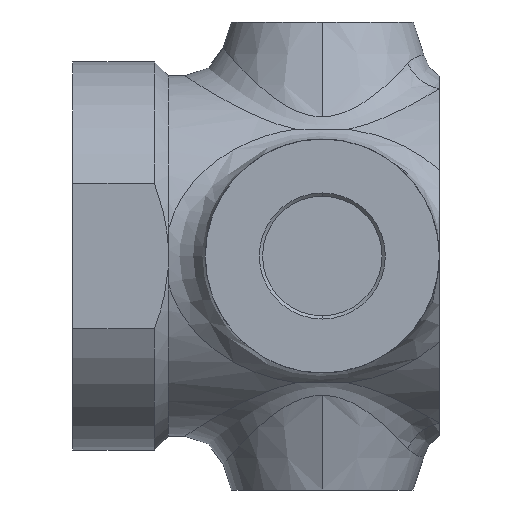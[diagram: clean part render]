
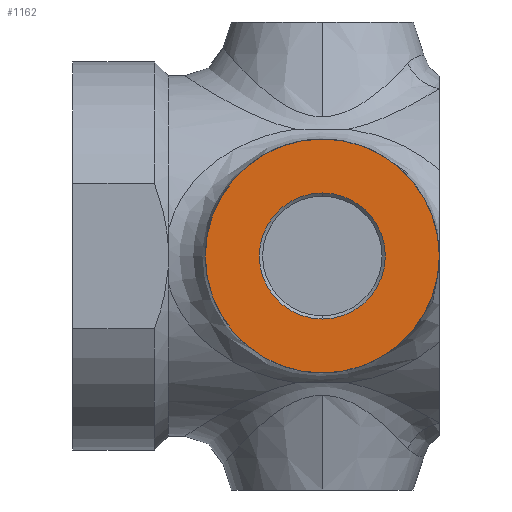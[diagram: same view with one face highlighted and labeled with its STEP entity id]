
A CAD part, left-side view. The second image highlights one B-rep face of the part: STEP entity #1162.
In plain terms, the highlighted planar face has unit normal (-1, 0, 0).
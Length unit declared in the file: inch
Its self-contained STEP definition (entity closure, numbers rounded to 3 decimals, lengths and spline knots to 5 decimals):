
#5 = EDGE_CURVE ( 'NONE', #3553, #3757, #2267, .T. ) ;
#179 = ORIENTED_EDGE ( 'NONE', *, *, #5, .T. ) ;
#219 = VERTEX_POINT ( 'NONE', #5258 ) ;
#349 = CARTESIAN_POINT ( 'NONE',  ( -0.73228, 0., 0. ) ) ;
#425 = VERTEX_POINT ( 'NONE', #5391 ) ;
#478 = FACE_OUTER_BOUND ( 'NONE', #3987, .T. ) ;
#555 = AXIS2_PLACEMENT_3D ( 'NONE', #2256, #4986, #1822 ) ;
#1051 = ORIENTED_EDGE ( 'NONE', *, *, #3594, .T. ) ;
#1162 = ADVANCED_FACE ( 'NONE', ( #478, #1477 ), #4514, .F. ) ;
#1477 = FACE_BOUND ( 'NONE', #1761, .T. ) ;
#1761 = EDGE_LOOP ( 'NONE', ( #3229, #1051 ) ) ;
#1784 = DIRECTION ( 'NONE',  ( 0., 0., -1. ) ) ;
#1822 = DIRECTION ( 'NONE',  ( 0., 1., 0. ) ) ;
#2256 = CARTESIAN_POINT ( 'NONE',  ( -0.73228, 0.07008, 0. ) ) ;
#2267 = CIRCLE ( 'NONE', #2978, 0.37494 ) ;
#2347 = CARTESIAN_POINT ( 'NONE',  ( -0.73228, 0., 0.37494 ) ) ;
#2473 = CIRCLE ( 'NONE', #2827, 0.20197 ) ;
#2605 = CIRCLE ( 'NONE', #3956, 0.20197 ) ;
#2770 = CARTESIAN_POINT ( 'NONE',  ( -0.73228, 0., 0. ) ) ;
#2827 = AXIS2_PLACEMENT_3D ( 'NONE', #349, #3058, #5152 ) ;
#2978 = AXIS2_PLACEMENT_3D ( 'NONE', #2770, #3927, #1784 ) ;
#3058 = DIRECTION ( 'NONE',  ( 1., 0., 0. ) ) ;
#3110 = DIRECTION ( 'NONE',  ( 1., 0., 0. ) ) ;
#3162 = ORIENTED_EDGE ( 'NONE', *, *, #3700, .T. ) ;
#3229 = ORIENTED_EDGE ( 'NONE', *, *, #5684, .T. ) ;
#3553 = VERTEX_POINT ( 'NONE', #4375 ) ;
#3586 = CIRCLE ( 'NONE', #3678, 0.37494 ) ;
#3594 = EDGE_CURVE ( 'NONE', #219, #425, #2605, .T. ) ;
#3678 = AXIS2_PLACEMENT_3D ( 'NONE', #4348, #3896, #5674 ) ;
#3700 = EDGE_CURVE ( 'NONE', #3757, #3553, #3586, .T. ) ;
#3757 = VERTEX_POINT ( 'NONE', #2347 ) ;
#3896 = DIRECTION ( 'NONE',  ( -1., 0., 0. ) ) ;
#3926 = CARTESIAN_POINT ( 'NONE',  ( -0.73228, 0., 0. ) ) ;
#3927 = DIRECTION ( 'NONE',  ( -1., 0., 0. ) ) ;
#3956 = AXIS2_PLACEMENT_3D ( 'NONE', #3926, #3110, #5237 ) ;
#3987 = EDGE_LOOP ( 'NONE', ( #179, #3162 ) ) ;
#4348 = CARTESIAN_POINT ( 'NONE',  ( -0.73228, 0., 0. ) ) ;
#4375 = CARTESIAN_POINT ( 'NONE',  ( -0.73228, 0., -0.37494 ) ) ;
#4514 = PLANE ( 'NONE',  #555 ) ;
#4986 = DIRECTION ( 'NONE',  ( 1., 0., 0. ) ) ;
#5152 = DIRECTION ( 'NONE',  ( 0., 0., -1. ) ) ;
#5237 = DIRECTION ( 'NONE',  ( 0., 0., -1. ) ) ;
#5258 = CARTESIAN_POINT ( 'NONE',  ( -0.73228, 0., -0.20197 ) ) ;
#5391 = CARTESIAN_POINT ( 'NONE',  ( -0.73228, 0., 0.20197 ) ) ;
#5674 = DIRECTION ( 'NONE',  ( 0., 0., -1. ) ) ;
#5684 = EDGE_CURVE ( 'NONE', #425, #219, #2473, .T. ) ;
